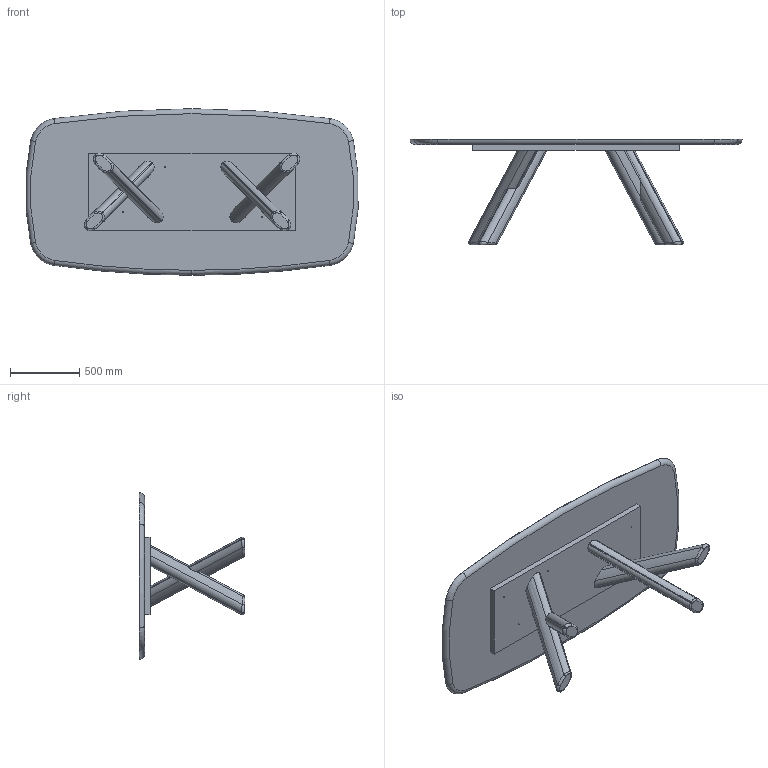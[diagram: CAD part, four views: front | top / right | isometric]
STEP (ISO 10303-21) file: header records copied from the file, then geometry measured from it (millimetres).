
FILE_DESCRIPTION (( 'STEP AP203' ), '1' );
FILE_NAME ('CN43W_CANOVA_top legno 240x120x75h sag.STEP', '2025-04-15T07:09:23', ( '' ), ( '' ), 'SwSTEP 2.0', 'SolidWorks 2022', '' );
FILE_SCHEMA (( 'CONFIG_CONTROL_DESIGN' ));
Length unit declared in the file: millimetre
Products named in the file (5): PIANI_modello 3D x web_Legno 240x120 sag; CAMP_00056-00-Assieme Basamento con gambe in legno incrociate_leggero; CN43W_CANOVA_top legno 240x120x75h sag; CAMP_00058-00-Gamba in legno Interna_leggero; CAMP_00057-00-Gamba in legno Esterna_leggero
Assembly tree (5 placements, depth 3):
  CN43W_CANOVA_top legno 240x120x75h sag
    PIANI_modello 3D x web_Legno 240x120 sag
    CAMP_00056-00-Assieme Basamento con gambe in legno incrociate_leggero  x2
      CAMP_00057-00-Gamba in legno Esterna_leggero
      CAMP_00058-00-Gamba in legno Interna_leggero
Bounding box: 2391.62 x 760 x 1200 mm (x, y, z)
Volume: 170554080.9 mm3; surface area: 8746870.5 mm2
Topology: 6 solids, 6 shells, 174 faces, 419 edges, 263 vertices
Faces by surface type: cylinder 99, bspline 36, plane 22, torus 9, cone 8
Entity records: 4625 total; most frequent: CARTESIAN_POINT 1638, ORIENTED_EDGE 536, DIRECTION 502, EDGE_CURVE 268, AXIS2_PLACEMENT_3D 211, VERTEX_POINT 169, EDGE_LOOP 133, CIRCLE 110
